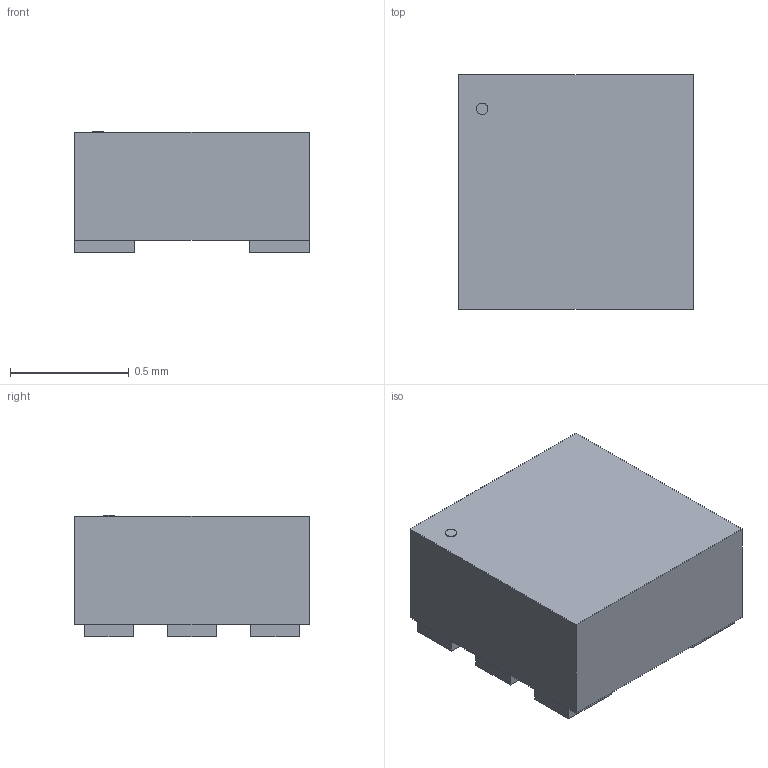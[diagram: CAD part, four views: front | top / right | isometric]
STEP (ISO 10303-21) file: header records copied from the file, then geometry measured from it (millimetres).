
FILE_DESCRIPTION(('STEP AP214'),'1');
FILE_NAME('PDFN6_1X1_MCM','2024-04-13T04:36:08',(''),(''),'','','');
FILE_SCHEMA(('AUTOMOTIVE_DESIGN'));
Length unit declared in the file: millimetre
Products named in the file (1): product
Bounding box: 0.99 x 0.99 x 0.51 mm (x, y, z)
Volume: 0.5 mm3; surface area: 4.7 mm2
Topology: 8 solids, 8 shells, 45 faces, 87 edges, 58 vertices
Faces by surface type: plane 44, cylinder 1
Full cylindrical faces by diameter (mm): 0.05 x1
Entity records: 1237 total; most frequent: DIRECTION 182, ORIENTED_EDGE 172, CARTESIAN_POINT 107, EDGE_CURVE 86, LINE 84, VECTOR 84, VERTEX_POINT 58, AXIS2_PLACEMENT_3D 49
